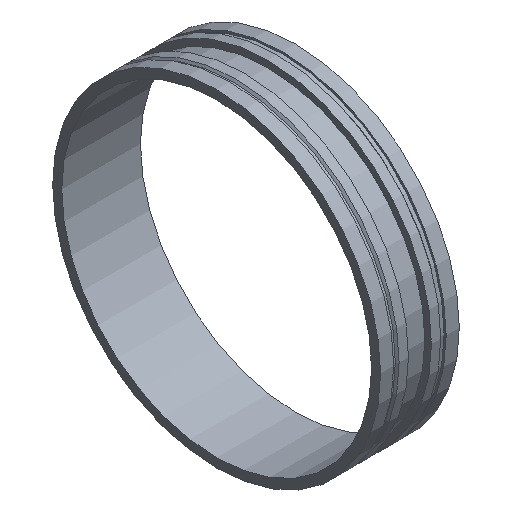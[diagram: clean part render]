
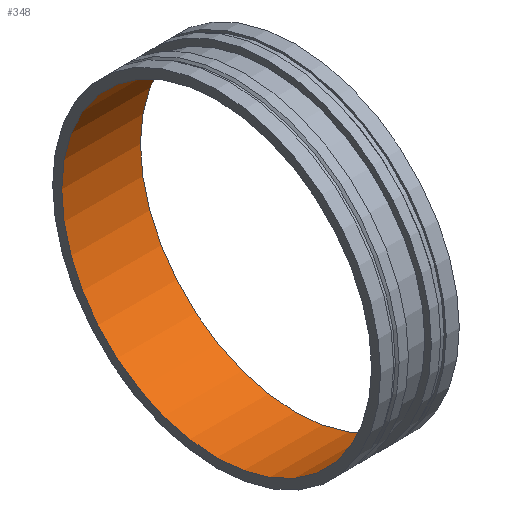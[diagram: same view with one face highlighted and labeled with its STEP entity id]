
A CAD part, isometric view. The second image highlights one B-rep face of the part: STEP entity #348.
In plain terms, the highlighted cylindrical face has radius 600.075 mm (diameter 1200.15 mm), a full revolution.
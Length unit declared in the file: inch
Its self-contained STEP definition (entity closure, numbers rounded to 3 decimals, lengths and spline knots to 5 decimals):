
#56=LINE('',#654,#66);
#66=VECTOR('',#537,23.625);
#74=CYLINDRICAL_SURFACE('',#416,23.625);
#96=FACE_OUTER_BOUND('',#118,.T.);
#118=EDGE_LOOP('',(#303,#304,#305,#306,#307,#308));
#121=CIRCLE('',#372,23.625);
#122=CIRCLE('',#373,23.625);
#149=CIRCLE('',#414,23.625);
#150=CIRCLE('',#415,23.625);
#153=VERTEX_POINT('',#570);
#154=VERTEX_POINT('',#571);
#181=VERTEX_POINT('',#649);
#182=VERTEX_POINT('',#650);
#185=EDGE_CURVE('',#153,#154,#121,.T.);
#186=EDGE_CURVE('',#154,#153,#122,.T.);
#222=EDGE_CURVE('',#181,#182,#149,.T.);
#223=EDGE_CURVE('',#182,#181,#150,.T.);
#224=EDGE_CURVE('',#182,#154,#56,.T.);
#303=ORIENTED_EDGE('',*,*,#222,.T.);
#304=ORIENTED_EDGE('',*,*,#224,.T.);
#305=ORIENTED_EDGE('',*,*,#185,.F.);
#306=ORIENTED_EDGE('',*,*,#186,.F.);
#307=ORIENTED_EDGE('',*,*,#224,.F.);
#308=ORIENTED_EDGE('',*,*,#223,.T.);
#348=ADVANCED_FACE('',(#96),#74,.F.);
#372=AXIS2_PLACEMENT_3D('',#572,#438,#439);
#373=AXIS2_PLACEMENT_3D('',#573,#440,#441);
#414=AXIS2_PLACEMENT_3D('',#651,#531,#532);
#415=AXIS2_PLACEMENT_3D('',#652,#533,#534);
#416=AXIS2_PLACEMENT_3D('',#653,#535,#536);
#438=DIRECTION('center_axis',(1.,0.,0.));
#439=DIRECTION('ref_axis',(0.,0.,-1.));
#440=DIRECTION('center_axis',(1.,0.,0.));
#441=DIRECTION('ref_axis',(0.,0.,-1.));
#531=DIRECTION('center_axis',(1.,0.,0.));
#532=DIRECTION('ref_axis',(0.,0.,-1.));
#533=DIRECTION('center_axis',(1.,0.,0.));
#534=DIRECTION('ref_axis',(0.,0.,-1.));
#535=DIRECTION('center_axis',(1.,0.,0.));
#536=DIRECTION('ref_axis',(0.,1.,0.));
#537=DIRECTION('',(-1.,0.,0.));
#570=CARTESIAN_POINT('',(0.,23.625,0.));
#571=CARTESIAN_POINT('',(0.,-23.625,0.));
#572=CARTESIAN_POINT('Origin',(0.,0.,
0.));
#573=CARTESIAN_POINT('Origin',(0.,0.,
0.));
#649=CARTESIAN_POINT('',(12.,23.625,0.));
#650=CARTESIAN_POINT('',(12.,-23.625,0.));
#651=CARTESIAN_POINT('Origin',(12.,0.,0.));
#652=CARTESIAN_POINT('Origin',(12.,0.,0.));
#653=CARTESIAN_POINT('Origin',(6.,0.,0.));
#654=CARTESIAN_POINT('',(6.,-23.625,0.));
